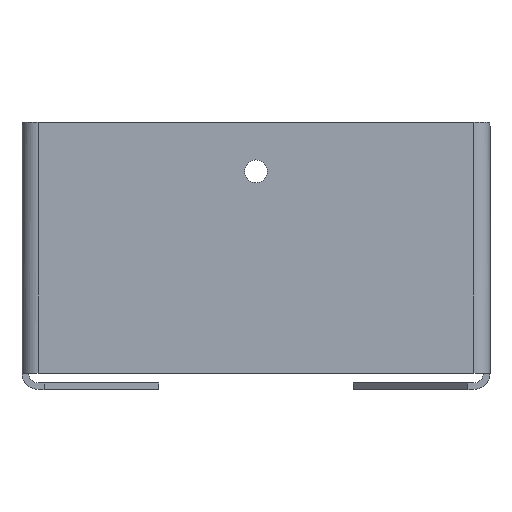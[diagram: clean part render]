
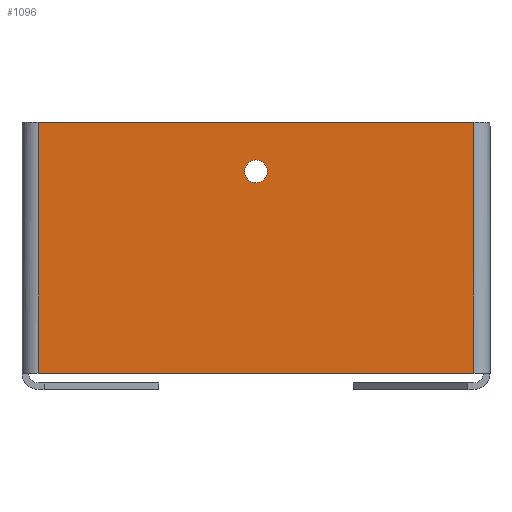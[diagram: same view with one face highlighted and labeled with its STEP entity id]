
A CAD part, front view. The second image highlights one B-rep face of the part: STEP entity #1096.
In plain terms, the highlighted planar face has unit normal (0, -1, 0).
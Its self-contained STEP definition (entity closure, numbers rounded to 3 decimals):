
#12 = VERTEX_POINT ( 'NONE', #1662 ) ;
#28 = LINE ( 'NONE', #1036, #2847 ) ;
#244 = CARTESIAN_POINT ( 'NONE',  ( 316.858, 0., -37. ) ) ;
#292 = VERTEX_POINT ( 'NONE', #4863 ) ;
#429 = ORIENTED_EDGE ( 'NONE', *, *, #4937, .T. ) ;
#452 = DIRECTION ( 'NONE',  ( 0., 0., -1. ) ) ;
#460 = LINE ( 'NONE', #1590, #576 ) ;
#489 = DIRECTION ( 'NONE',  ( 0., 1., 0. ) ) ;
#576 = VECTOR ( 'NONE', #756, 1000. ) ;
#580 = EDGE_CURVE ( 'NONE', #4615, #1632, #3990, .T. ) ;
#646 = ORIENTED_EDGE ( 'NONE', *, *, #3503, .T. ) ;
#711 = EDGE_CURVE ( 'NONE', #1269, #292, #28, .T. ) ;
#756 = DIRECTION ( 'NONE',  ( 1., 0., 0. ) ) ;
#762 = VECTOR ( 'NONE', #4150, 1000. ) ;
#840 = AXIS2_PLACEMENT_3D ( 'NONE', #3308, #4449, #452 ) ;
#956 = EDGE_CURVE ( 'NONE', #4005, #292, #460, .T. ) ;
#972 = DIRECTION ( 'NONE',  ( 0., 1., 0. ) ) ;
#1036 = CARTESIAN_POINT ( 'NONE',  ( 316.858, 0., 0. ) ) ;
#1077 = ORIENTED_EDGE ( 'NONE', *, *, #3470, .F. ) ;
#1096 = ADVANCED_FACE ( 'NONE', ( #3468, #1968 ), #1224, .T. ) ;
#1141 = AXIS2_PLACEMENT_3D ( 'NONE', #4902, #489, #1334 ) ;
#1224 = PLANE ( 'NONE',  #840 ) ;
#1242 = ORIENTED_EDGE ( 'NONE', *, *, #956, .F. ) ;
#1269 = VERTEX_POINT ( 'NONE', #244 ) ;
#1277 = EDGE_LOOP ( 'NONE', ( #429, #4355 ) ) ;
#1332 = CARTESIAN_POINT ( 'NONE',  ( 0., 0., -37. ) ) ;
#1334 = DIRECTION ( 'NONE',  ( 0., 0., 1. ) ) ;
#1365 = DIRECTION ( 'NONE',  ( 0., 0., 1. ) ) ;
#1367 = DIRECTION ( 'NONE',  ( 0., 0., 1. ) ) ;
#1403 = EDGE_LOOP ( 'NONE', ( #646, #3937, #1242, #1077 ) ) ;
#1590 = CARTESIAN_POINT ( 'NONE',  ( 0., 0., 40. ) ) ;
#1632 = VERTEX_POINT ( 'NONE', #3199 ) ;
#1662 = CARTESIAN_POINT ( 'NONE',  ( 183.142, 0., -37. ) ) ;
#1806 = AXIS2_PLACEMENT_3D ( 'NONE', #2587, #972, #1367 ) ;
#1968 = FACE_OUTER_BOUND ( 'NONE', #1403, .T. ) ;
#2125 = DIRECTION ( 'NONE',  ( 0., 0., 1. ) ) ;
#2474 = CARTESIAN_POINT ( 'NONE',  ( 183.142, 0., 40. ) ) ;
#2567 = CARTESIAN_POINT ( 'NONE',  ( 183.142, 0., 0. ) ) ;
#2587 = CARTESIAN_POINT ( 'NONE',  ( 250., 0., 25. ) ) ;
#2639 = VECTOR ( 'NONE', #2125, 1000. ) ;
#2847 = VECTOR ( 'NONE', #1365, 1000. ) ;
#2852 = LINE ( 'NONE', #1332, #762 ) ;
#3199 = CARTESIAN_POINT ( 'NONE',  ( 250., 0., 28.5 ) ) ;
#3308 = CARTESIAN_POINT ( 'NONE',  ( 0., 0., 0. ) ) ;
#3468 = FACE_BOUND ( 'NONE', #1277, .T. ) ;
#3470 = EDGE_CURVE ( 'NONE', #12, #4005, #3692, .T. ) ;
#3503 = EDGE_CURVE ( 'NONE', #12, #1269, #2852, .T. ) ;
#3692 = LINE ( 'NONE', #2567, #2639 ) ;
#3937 = ORIENTED_EDGE ( 'NONE', *, *, #711, .T. ) ;
#3990 = CIRCLE ( 'NONE', #1141, 3.5 ) ;
#4005 = VERTEX_POINT ( 'NONE', #2474 ) ;
#4150 = DIRECTION ( 'NONE',  ( 1., 0., 0. ) ) ;
#4355 = ORIENTED_EDGE ( 'NONE', *, *, #580, .T. ) ;
#4437 = CARTESIAN_POINT ( 'NONE',  ( 250., 0., 21.5 ) ) ;
#4449 = DIRECTION ( 'NONE',  ( 0., -1., 0. ) ) ;
#4615 = VERTEX_POINT ( 'NONE', #4437 ) ;
#4863 = CARTESIAN_POINT ( 'NONE',  ( 316.858, 0., 40. ) ) ;
#4891 = CIRCLE ( 'NONE', #1806, 3.5 ) ;
#4902 = CARTESIAN_POINT ( 'NONE',  ( 250., 0., 25. ) ) ;
#4937 = EDGE_CURVE ( 'NONE', #1632, #4615, #4891, .T. ) ;
